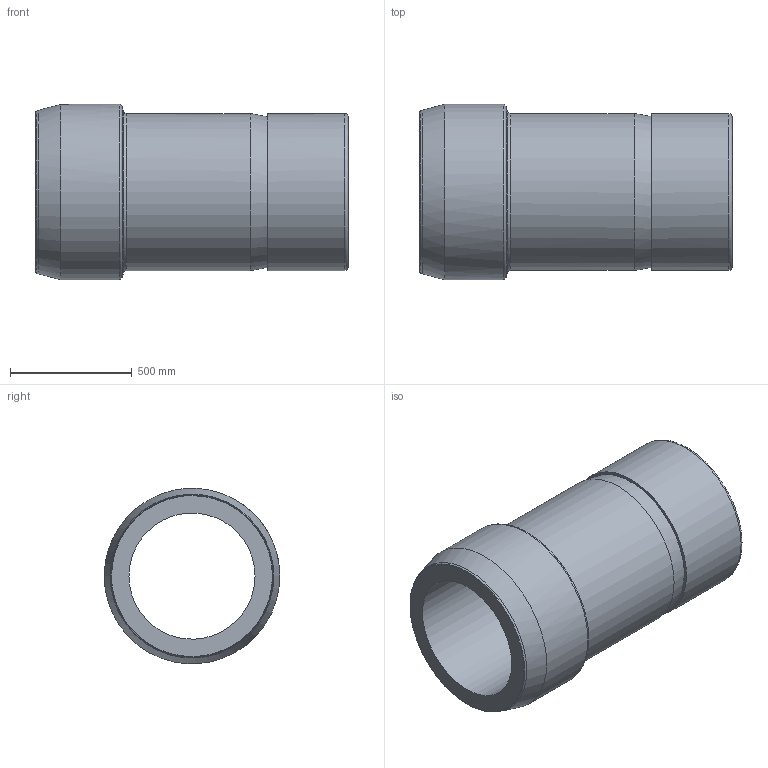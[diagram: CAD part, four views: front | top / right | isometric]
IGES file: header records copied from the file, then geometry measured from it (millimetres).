
Global section: file name: SPC-16; native system: Autodesk Inventor 2016; preprocessor: unknown; author: DESIGNPC2; date: 20151219.132226; units: millimetre
Bounding box: 1282.7 x 721.36 x 720.55 mm (x, y, z)
Volume: 173965651.1 mm3; surface area: 5089731.6 mm2
Topology: 1 solids, 1 shells, 15 faces, 48 edges, 36 vertices
Faces by surface type: bspline 15
